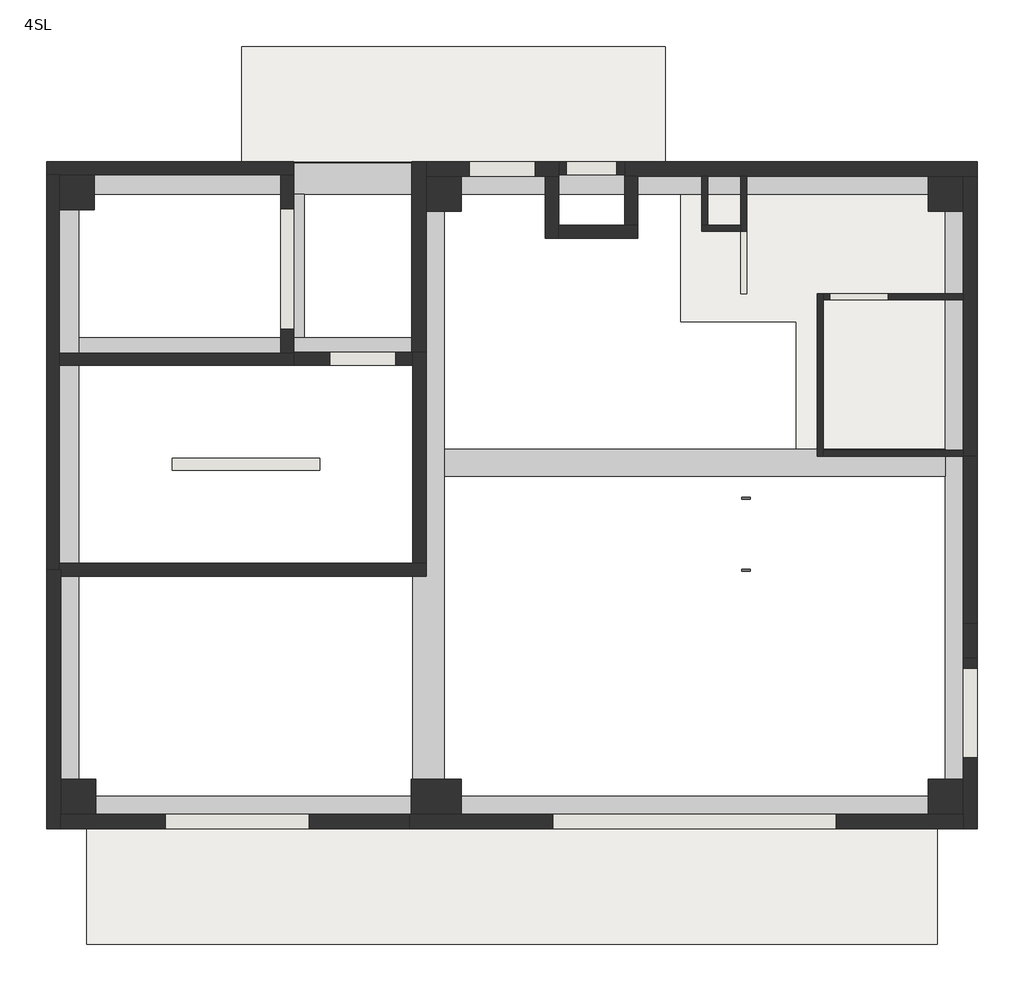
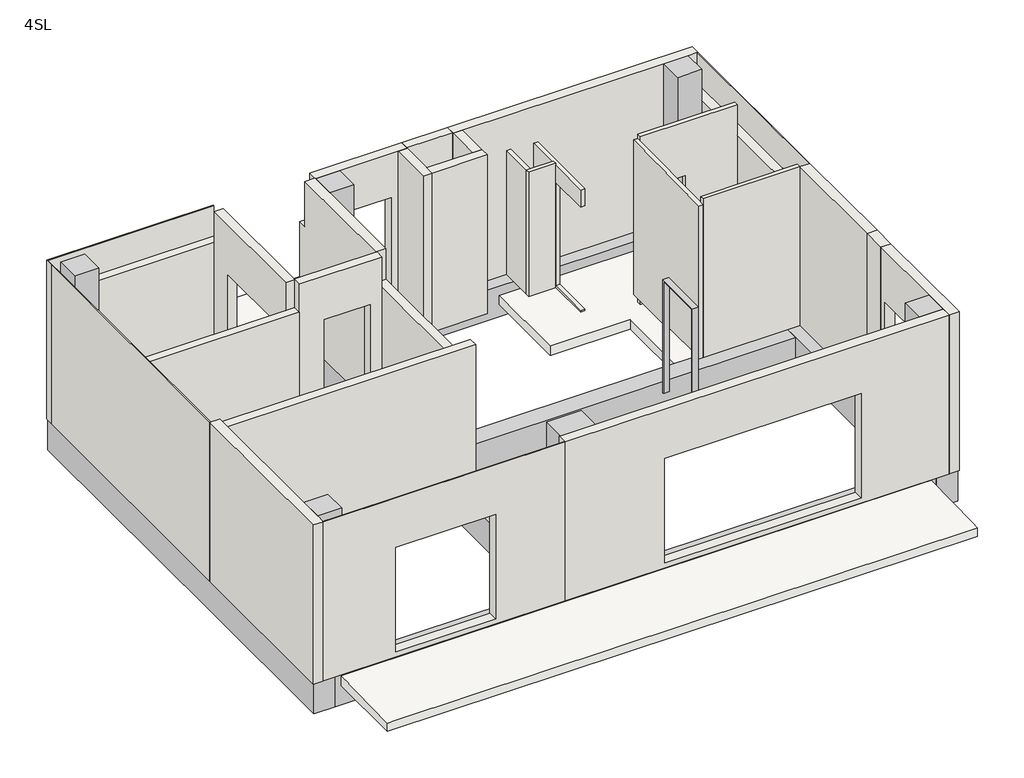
# One storey: 28 walls, 9 beams, 6 columns, 3 slabs, 1 proxy.
"""IFC4 building model written with IfcOpenShell, lengths in millimetres."""

import ifcopenshell
import ifcopenshell.guid

model = None  # the IFC model being written
_history = None  # IfcOwnerHistory: only IFC2X3 demands one
_inside = {}  # id of a spatial element -> (the spatial element, [elements in it])
_under = {}  # id of a project, library or spatial element -> (it, [spatial elements below it])
_declared = {}  # id of a project -> (the project, [libraries it declares])
_typed = {}  # id of a type object -> (the type object, [elements of that type])
_made_of = {}  # id of a material, layer set ... -> (it, [elements and type objects made of it])


def new_model(schema):
    """Start an empty IFC model of exactly this schema.

    Asked for "IFC4X3", IfcOpenShell would pick the latest addendum, in which some entities
    have other attributes; the version numbers below select the first issue.
    IFC2X3 requires an IfcOwnerHistory on every rooted entity: one is made here for all.
    """
    global model, _history
    if schema == "IFC4X3":
        model = ifcopenshell.file(schema_version=(4, 3, 0, 0))
    else:
        model = ifcopenshell.file(schema=schema)
    _inside.clear()
    _under.clear()
    _declared.clear()
    _typed.clear()
    _made_of.clear()
    _history = None
    if model.schema == "IFC2X3":
        org = make("IfcOrganization", Name="unknown")
        user = make(
            "IfcPersonAndOrganization",
            ThePerson=make("IfcPerson", FamilyName="unknown"),
            TheOrganization=org,
        )
        app = make(
            "IfcApplication",
            ApplicationDeveloper=org,
            Version="unknown",
            ApplicationFullName="unknown",
            ApplicationIdentifier="unknown",
        )
        _history = make(
            "IfcOwnerHistory",
            OwningUser=user,
            OwningApplication=app,
            ChangeAction="ADDED",
            CreationDate=0,
        )
    return model


def make(cls, **values):
    """One entity of the class cls with the attributes given. An attribute that is None is left unset."""
    return model.create_entity(
        cls, **{name: value for name, value in values.items() if value is not None}
    )


def rooted(cls, **values):
    """An entity with a GlobalId (a new one), such as an element, a storey or a relation."""
    return make(cls, GlobalId=ifcopenshell.guid.new(), OwnerHistory=_history, **values)


def si_unit(unit_type, name, prefix=None):
    """IfcSIUnit, for example si_unit("LENGTHUNIT", "METRE", prefix="MILLI")."""
    return make("IfcSIUnit", UnitType=unit_type, Prefix=prefix, Name=name)


def assignment(units):
    """IfcUnitAssignment: the units of a project."""
    return None if units is None else make("IfcUnitAssignment", Units=units)


def point(xyz):
    """IfcCartesianPoint."""
    return None if xyz is None else make("IfcCartesianPoint", Coordinates=xyz)


def direction(xyz):
    """IfcDirection."""
    return None if xyz is None else make("IfcDirection", DirectionRatios=xyz)


def frame(location, z_axis=None, x_axis=None):
    """IfcAxis2Placement3D, a coordinate frame: its origin and axes. An axis left out is left unset."""
    return make(
        "IfcAxis2Placement3D",
        Location=point(location),
        Axis=direction(z_axis),
        RefDirection=direction(x_axis),
    )


def origin():
    """The frame at (0, 0, 0) with its axes left unset."""
    return frame((0.0, 0.0, 0.0))


def place(relative_to, where):
    """IfcLocalPlacement: puts the frame where relative to a parent placement (None: the world)."""
    return make(
        "IfcLocalPlacement", PlacementRelTo=relative_to, RelativePlacement=where
    )


def context(
    kind, dimensions, precision=None, world=None, true_north=None, identifier=None
):
    """IfcGeometricRepresentationContext, for example the 3D "Model" context."""
    return make(
        "IfcGeometricRepresentationContext",
        ContextIdentifier=identifier,
        ContextType=kind,
        CoordinateSpaceDimension=dimensions,
        Precision=precision,
        WorldCoordinateSystem=world,
        TrueNorth=true_north,
    )


def project(units=None, contexts=None):
    """IfcProject with its units and contexts."""
    return rooted(
        "IfcProject",
        Name="project",
        RepresentationContexts=contexts,
        UnitsInContext=assignment(units),
    )


def spatial(cls, under=None, at=None, **own):
    """A site, building, storey or space (cls), placed at a placement, below another one or the project."""
    s = rooted(cls, ObjectPlacement=at, **own)
    if under is not None:
        _under.setdefault(under.id(), (under, []))[1].append(s)
    return s


def polyline(points):
    """IfcPolyline through the points."""
    return make("IfcPolyline", Points=[point(p) for p in points])


def outline(outer, holes=None, kind="AREA"):
    """IfcArbitraryClosedProfileDef: a profile drawn as a closed curve; with holes, ...WithVoids."""
    if holes is None:
        return make("IfcArbitraryClosedProfileDef", ProfileType=kind, OuterCurve=outer)
    return make(
        "IfcArbitraryProfileDefWithVoids",
        ProfileType=kind,
        OuterCurve=outer,
        InnerCurves=holes,
    )


def extrude(swept, where, along, depth):
    """IfcExtrudedAreaSolid: the profile swept, set in the frame where, extruded along a direction by depth."""
    return make(
        "IfcExtrudedAreaSolid",
        SweptArea=swept,
        Position=where,
        ExtrudedDirection=direction(along),
        Depth=depth,
    )


def faces_of(points, faces, orient=None, outer=None):
    """IfcFace entities. A face is a list of loops; a loop is a list of indices into points, from 0.

    orient and outer hold one flag for each loop. By default every Orientation is true, the
    first loop of a face is its IfcFaceOuterBound and the others are IfcFaceBound.
    """
    made = []
    for i, loops in enumerate(faces):
        bounds = []
        for j, loop in enumerate(loops):
            is_outer = j == 0 if outer is None else outer[i][j]
            bounds.append(
                make(
                    "IfcFaceOuterBound" if is_outer else "IfcFaceBound",
                    Bound=make("IfcPolyLoop", Polygon=[points[k] for k in loop]),
                    Orientation=True if orient is None else orient[i][j],
                )
            )
        made.append(make("IfcFace", Bounds=bounds))
    return made


def faceted_brep(points, faces, orient=None, outer=None, voids=None):
    """IfcFacetedBrep: a solid bounded by flat faces; with voids (closed shells), ...WithVoids."""
    shared = [point(p) for p in points]
    hull = make("IfcClosedShell", CfsFaces=faces_of(shared, faces, orient, outer))
    if voids is None:
        return make("IfcFacetedBrep", Outer=hull)
    return make(
        "IfcFacetedBrepWithVoids",
        Outer=hull,
        Voids=[
            make(cls, CfsFaces=faces_of(shared, fs, o, b)) for cls, fs, o, b in voids
        ],
    )


def shape(context_of_items, identifier, shape_type, items):
    """IfcShapeRepresentation: the items that make up one representation, for example the "Body"."""
    return make(
        "IfcShapeRepresentation",
        ContextOfItems=context_of_items,
        RepresentationIdentifier=identifier,
        RepresentationType=shape_type,
        Items=items,
    )


def source(mapping_origin, context_of_items, identifier, shape_type, items):
    """IfcRepresentationMap: a shape defined once, which mapped items show again and again."""
    return make(
        "IfcRepresentationMap",
        MappingOrigin=mapping_origin,
        MappedRepresentation=shape(context_of_items, identifier, shape_type, items),
    )


def transform(
    local_origin,
    x_axis=None,
    y_axis=None,
    z_axis=None,
    scale=None,
    scale2=None,
    scale3=None,
    uniform=True,
):
    """IfcCartesianTransformationOperator3D, or its non-uniform kind. x_axis, y_axis, z_axis: its Axis1, 2, 3."""
    if uniform:
        return make(
            "IfcCartesianTransformationOperator3D",
            Axis1=direction(x_axis),
            Axis2=direction(y_axis),
            LocalOrigin=point(local_origin),
            Scale=scale,
            Axis3=direction(z_axis),
        )
    return make(
        "IfcCartesianTransformationOperator3DnonUniform",
        Axis1=direction(x_axis),
        Axis2=direction(y_axis),
        LocalOrigin=point(local_origin),
        Scale=scale,
        Axis3=direction(z_axis),
        Scale2=scale2,
        Scale3=scale3,
    )


def mapped(mapping_source, mapping_target):
    """IfcMappedItem: shows the shape of a source again, moved by a transform."""
    return make(
        "IfcMappedItem", MappingSource=mapping_source, MappingTarget=mapping_target
    )


def made_of(thing, what):
    """Note that an element or type object is made of a material, layer set ...; save() writes the relation."""
    if what is not None:
        _made_of.setdefault(what.id(), (what, []))[1].append(thing)
    return thing


def element(
    cls,
    number,
    at=None,
    inside=None,
    cuts=None,
    type_object=None,
    material=None,
    context=None,
    identifier="Body",
    shape_type=None,
    held_by="IfcProductDefinitionShape",
    body=None,
    shapes=None,
    **own,
):
    """One element of the class cls, such as IfcWall. Its Tag is "e" and its number.

    at: its placement. inside: the storey or other place that contains it. cuts: it is an
    opening in that element (IfcRelVoidsElement). A single representation is given by context,
    identifier, shape_type and body (its items); several are given by shapes. held_by: the class
    of the entity that holds the representations. save() writes the other relations.
    """
    e = rooted(cls, Tag="e%d" % number, ObjectPlacement=at, **own)
    if body is not None:
        shapes = [shape(context, identifier, shape_type, body)]
    if shapes is not None:
        e.Representation = make(held_by, Representations=shapes)
    if inside is not None:
        _inside.setdefault(inside.id(), (inside, []))[1].append(e)
    if cuts is not None:
        rooted(
            "IfcRelVoidsElement", RelatingBuildingElement=cuts, RelatedOpeningElement=e
        )
    if type_object is not None:
        _typed.setdefault(type_object.id(), (type_object, []))[1].append(e)
    return made_of(e, material)


def aggregate(whole, parts):
    """IfcRelAggregates: a whole, such as a stair, and the parts it consists of."""
    return rooted("IfcRelAggregates", RelatingObject=whole, RelatedObjects=parts)


def save(model, path):
    """Write the relations noted so far, then the file.

    IfcRelAggregates (storeys below a building ...), IfcRelContainedInSpatialStructure (elements
    in a storey), IfcRelDefinesByType, IfcRelAssociatesMaterial and IfcRelDeclares: one each for
    every whole, place, type object, material and project.
    """
    for whole, parts in _under.values():
        aggregate(whole, parts)
    for where, things in _inside.values():
        rooted(
            "IfcRelContainedInSpatialStructure",
            RelatedElements=things,
            RelatingStructure=where,
        )
    for kind, things in _typed.values():
        rooted("IfcRelDefinesByType", RelatedObjects=things, RelatingType=kind)
    for what, things in _made_of.values():
        rooted("IfcRelAssociatesMaterial", RelatedObjects=things, RelatingMaterial=what)
    for by, libraries in _declared.values():
        rooted("IfcRelDeclares", RelatingContext=by, RelatedDefinitions=libraries)
    model.write(path)


def w900h2200_d33cf105(model_context):
    return source(origin(), model_context, "Body", "SweptSolid", [
        extrude(outline(polyline([(0.0, -350.0), (0.0, -325.0), (2200.0, -325.0), (2200.0, 575.0), (0.0, 575.0), (0.0, 600.0), (2225.0, 600.0), (2225.0, -350.0), (0.0, -350.0)])), frame((0.0, -55.0, 0.0), z_axis=(0.0, 1.0, 0.0), x_axis=(0.0, 0.0, 1.0)), (0.0, 0.0, 1.0), 110.0),
    ])


model = new_model("IFC4")

# Units and contexts
model_context = context("Model", 3, world=origin())
ifc_project = project(units=[si_unit("LENGTHUNIT", "METRE", prefix="MILLI")], contexts=[model_context])

# Site, building, storey
site = spatial("IfcSite", under=ifc_project)
building = spatial("IfcBuilding", under=site)
storey = spatial("IfcBuildingStorey", under=building, Name="4SL", Elevation=9360.0)

# Beams
placement = place(None, origin())
element("IfcBeam", 1, ObjectType="コンクリート-長方形梁 : B1-350x550", at=placement, inside=storey, context=model_context, shape_type="SweptSolid", body=[
    extrude(outline(polyline([(7768.2341012, -131.3998484), (7768.2341012, -481.3998484), (1318.2341012, -481.3998484), (1318.2341012, -131.3998484), (7768.2341012, -131.3998484)])), frame((0.0, 0.0, 8810.0), z_axis=(0.0, 0.0, 1.0), x_axis=(1.0, 0.0, 0.0)), (0.0, 0.0, 1.0), 550.0),
])
element("IfcBeam", 2, ObjectType="コンクリート-長方形梁 : B1-350x550", at=placement, inside=storey, context=model_context, shape_type="Brep", body=[
    faceted_brep([(-3381.7658988, 1298.6001516, 9360.0), (-3381.7658988, 948.6001516, 9360.0), (-616.7658988, 948.6001516, 9360.0), (918.2341012, 948.6001516, 9360.0), (918.2341012, 1298.6001516, 9360.0), (-481.7658988, 1298.6001516, 9360.0), (-781.7658988, 1298.6001516, 9360.0), (-3381.7658988, 948.6001516, 8810.0), (-616.7658988, 948.6001516, 8810.0), (918.2341012, 948.6001516, 8810.0), (-3381.7658988, 1298.6001516, 8810.0), (918.2341012, 1298.6001516, 8810.0)], [[[0, 1, 2, 3, 4, 5, 6]], [[1, 7, 8, 9, 3, 2]], [[7, 10, 11, 9, 8]], [[10, 0, 6, 5, 4, 11]], [[1, 0, 10, 7]], [[4, 3, 9, 11]]]),
])
element("IfcBeam", 3, ObjectType="コンクリート-長方形梁 : B2-300x500", at=placement, inside=storey, context=model_context, shape_type="SweptSolid", body=[
    extrude(outline(polyline([(-481.7658988, 1298.6001516), (-781.7658988, 1298.6001516), (-781.7658988, 3148.6001516), (-481.7658988, 3148.6001516), (-481.7658988, 1298.6001516)])), frame((0.0, 0.0, 8860.0), z_axis=(0.0, 0.0, 1.0), x_axis=(1.0, 0.0, 0.0)), (0.0, 0.0, 1.0), 500.0),
])
element("IfcBeam", 4, ObjectType="コンクリート-長方形梁 : G1-400x600", at=placement, inside=storey, context=model_context, shape_type="Brep", body=[
    faceted_brep([(7768.2341012, -5001.3998484, 9360.0), (8168.2341012, -5001.3998484, 9360.0), (8168.2341012, -221.3998484, 9360.0), (8168.2341012, 3378.6001516, 9360.0), (8168.2341012, 3548.6001516, 9360.0), (7768.2341012, 3548.6001516, 9360.0), (7768.2341012, 3148.6001516, 9360.0), (7768.2341012, -131.3998484, 9360.0), (7768.2341012, -481.3998484, 9360.0), (7768.2341012, -4601.3998484, 9360.0), (8168.2341012, -5001.3998484, 8760.0), (8168.2341012, -221.3998484, 8760.0), (8168.2341012, 3378.6001516, 8760.0), (8168.2341012, 3548.6001516, 8760.0), (7768.2341012, -5001.3998484, 8760.0), (7768.2341012, -4601.3998484, 8760.0), (7768.2341012, 3148.6001516, 8760.0), (7768.2341012, 3548.6001516, 8760.0)], [[[0, 1, 2, 3, 4, 5, 6, 7, 8, 9]], [[1, 10, 11, 12, 13, 4, 3, 2]], [[10, 14, 15, 16, 17, 13, 12, 11]], [[14, 0, 9, 8, 7, 6, 5, 17, 16, 15]], [[1, 0, 14, 10]], [[5, 4, 13, 17]]]),
])
element("IfcBeam", 5, ObjectType="コンクリート-長方形梁 : G1-400x600", at=placement, inside=storey, context=model_context, shape_type="Brep", body=[
    faceted_brep([(-3381.7658988, 3548.6001516, 9360.0), (-3781.7658988, 3548.6001516, 9360.0), (-3781.7658988, 3398.6001516, 9360.0), (-3781.7658988, -1686.3998484, 9360.0), (-3781.7658988, -5001.3998484, 9360.0), (-3381.7658988, -5001.3998484, 9360.0), (-3381.7658988, -4601.3998484, 9360.0), (-3381.7658988, 948.6001516, 9360.0), (-3381.7658988, 1298.6001516, 9360.0), (-3381.7658988, 3148.6001516, 9360.0), (-3781.7658988, 3548.6001516, 8760.0), (-3781.7658988, 3398.6001516, 8760.0), (-3781.7658988, -1686.3998484, 8760.0), (-3781.7658988, -5001.3998484, 8760.0), (-3381.7658988, 3548.6001516, 8760.0), (-3381.7658988, 3148.6001516, 8760.0), (-3381.7658988, -4601.3998484, 8760.0), (-3381.7658988, -5001.3998484, 8760.0)], [[[0, 1, 2, 3, 4, 5, 6, 7, 8, 9]], [[1, 10, 11, 12, 13, 4, 3, 2]], [[10, 14, 15, 16, 17, 13, 12, 11]], [[14, 0, 9, 8, 7, 6, 5, 17, 16, 15]], [[1, 0, 14, 10]], [[5, 4, 13, 17]]]),
])
element("IfcBeam", 6, ObjectType="コンクリート-長方形梁 : G1-400x600", at=placement, inside=storey, context=model_context, shape_type="Brep", body=[
    faceted_brep([(918.2341012, -5001.3998484, 9360.0), (1318.2341012, -5001.3998484, 9360.0), (1318.2341012, -4601.3998484, 9360.0), (1318.2341012, -481.3998484, 9360.0), (1318.2341012, -131.3998484, 9360.0), (1318.2341012, 3148.6001516, 9360.0), (918.2341012, 3148.6001516, 9360.0), (918.2341012, 1298.6001516, 9360.0), (918.2341012, 1113.6001516, 9360.0), (918.2341012, 948.6001516, 9360.0), (918.2341012, -1601.3998484, 9360.0), (918.2341012, -4601.3998484, 9360.0), (918.2341012, -5001.3998484, 8760.0), (918.2341012, 3148.6001516, 8760.0), (918.2341012, 1113.6001516, 8760.0), (918.2341012, -1601.3998484, 8760.0), (918.2341012, -4601.3998484, 8760.0), (1318.2341012, -5001.3998484, 8760.0), (1318.2341012, 3148.6001516, 8760.0), (1318.2341012, -4601.3998484, 8760.0), (1318.2341012, 3148.6001516, 9180.0)], [[[0, 1, 2, 3, 4, 5, 6, 7, 8, 9, 10, 11]], [[12, 0, 11, 10, 9, 8, 7, 6, 13, 14, 15, 16]], [[17, 12, 16, 15, 14, 13, 18, 19]], [[1, 17, 19, 18, 20, 5, 4, 3, 2]], [[1, 0, 12, 17]], [[6, 5, 20, 18, 13]]]),
])
element("IfcBeam", 7, ObjectType="コンクリート-長方形梁 : G1-400x600", at=placement, inside=storey, context=model_context, shape_type="SweptSolid", body=[
    extrude(outline(polyline([(7768.2341012, -4601.3998484), (7768.2341012, -5001.3998484), (1318.2341012, -5001.3998484), (1318.2341012, -4601.3998484), (7768.2341012, -4601.3998484)])), frame((0.0, 0.0, 8760.0), z_axis=(0.0, 0.0, 1.0), x_axis=(1.0, 0.0, 0.0)), (0.0, 0.0, 1.0), 600.0),
])
element("IfcBeam", 8, ObjectType="コンクリート-長方形梁 : G1-400x600", at=placement, inside=storey, context=model_context, shape_type="Brep", body=[
    faceted_brep([(7768.2341012, 3148.6001516, 9360.0), (7768.2341012, 3548.6001516, 9360.0), (-616.7658988, 3548.6001516, 9360.0), (-3381.7658988, 3548.6001516, 9360.0), (-3381.7658988, 3148.6001516, 9360.0), (-781.7658988, 3148.6001516, 9360.0), (-481.7658988, 3148.6001516, 9360.0), (918.2341012, 3148.6001516, 9360.0), (1318.2341012, 3148.6001516, 9360.0), (7768.2341012, 3548.6001516, 8760.0), (-616.7658988, 3548.6001516, 8760.0), (-3381.7658988, 3548.6001516, 8760.0), (7768.2341012, 3148.6001516, 8760.0), (1318.2341012, 3148.6001516, 8760.0), (918.2341012, 3148.6001516, 8760.0), (-3381.7658988, 3148.6001516, 8760.0)], [[[0, 1, 2, 3, 4, 5, 6, 7, 8]], [[1, 9, 10, 11, 3, 2]], [[9, 12, 13, 14, 15, 11, 10]], [[12, 0, 8, 7, 6, 5, 4, 15, 14, 13]], [[1, 0, 12, 9]], [[4, 3, 11, 15]]]),
])
element("IfcBeam", 9, ObjectType="コンクリート-長方形梁 : G1-400x600", at=placement, inside=storey, context=model_context, shape_type="Brep", body=[
    faceted_brep([(-3381.7658988, -4601.3998484, 9360.0), (-3381.7658988, -5001.3998484, 9360.0), (870.7341012, -5001.3998484, 9360.0), (918.2341012, -5001.3998484, 9360.0), (918.2341012, -4601.3998484, 9360.0), (-3381.7658988, -5001.3998484, 8760.0), (870.7341012, -5001.3998484, 8760.0), (918.2341012, -5001.3998484, 8760.0), (-3381.7658988, -4601.3998484, 8760.0), (918.2341012, -4601.3998484, 8760.0), (-3381.7658988, -4601.3998484, 9180.0), (918.2341012, -4601.3998484, 9180.0)], [[[0, 1, 2, 3, 4]], [[1, 5, 6, 7, 3, 2]], [[5, 8, 9, 7, 6]], [[8, 10, 0, 4, 11, 9]], [[1, 0, 10, 8, 5]], [[4, 3, 7, 9, 11]]]),
])

# Proxy
w900h2200_shape = w900h2200_d33cf105(model_context)
element("IfcBuildingElementProxy", 10, Name="開口枠 - 鋼製 1 : W900H2200", ObjectType="開口枠 - 鋼製 1 : W900H2200", at=placement, inside=storey, context=model_context, shape_type="MappedRepresentation", body=[
    mapped(w900h2200_shape, transform((5203.2341012, -1351.3998484, 9360.0), x_axis=(0.0, 1.0, 0.0), y_axis=(-1.0, 0.0, 0.0), z_axis=(0.0, 0.0, 1.0))),
])

# Columns
element("IfcColumn", 11, ObjectType="角柱 : 600 x 600mm", at=placement, inside=storey, context=model_context, shape_type="Brep", body=[
    faceted_brep([(-3181.7658988, 2948.6001516, 12480.0), (-3181.7658988, 3398.6001516, 12480.0), (-3631.7658988, 3398.6001516, 12480.0), (-3631.7658988, 2948.6001516, 12480.0), (-3181.7658988, 3398.6001516, 9360.0), (-3181.7658988, 2948.6001516, 9360.0), (-3631.7658988, 2948.6001516, 9360.0), (-3631.7658988, 3398.6001516, 9360.0), (-3631.7658988, 3398.6001516, 11880.0)], [[[0, 1, 2, 3]], [[4, 5, 6, 7]], [[5, 0, 3, 6]], [[0, 5, 4, 1]], [[1, 4, 7, 8, 2]], [[3, 2, 8, 7, 6]]]),
])
element("IfcColumn", 12, ObjectType="角柱 : 620 x 620mm", at=placement, inside=storey, context=model_context, shape_type="Brep", body=[
    faceted_brep([(7548.2341012, -4381.3998484, 12480.0), (7548.2341012, -4831.3998484, 12480.0), (7998.2341012, -4831.3998484, 12480.0), (7998.2341012, -4381.3998484, 12480.0), (7548.2341012, -4831.3998484, 9360.0), (7548.2341012, -4381.3998484, 9360.0), (7998.2341012, -4381.3998484, 9360.0), (7998.2341012, -4831.3998484, 9360.0), (7548.2341012, -4381.3998484, 9395.0), (7548.2341012, -4381.3998484, 11795.0), (7998.2341012, -4381.3998484, 11795.0), (7998.2341012, -4381.3998484, 9395.0), (7548.2341012, -4831.3998484, 9395.0), (7548.2341012, -4831.3998484, 11795.0)], [[[0, 1, 2, 3]], [[4, 5, 6, 7]], [[5, 8, 9, 0, 3, 10, 11, 6]], [[0, 9, 8, 5, 4, 12, 13, 1]], [[2, 1, 13, 12, 4, 7]], [[3, 2, 7, 6, 11, 10]]]),
])
element("IfcColumn", 13, ObjectType="角柱 : 620 x 620mm", at=placement, inside=storey, context=model_context, shape_type="Brep", body=[
    faceted_brep([(7548.2341012, 2928.6001516, 12480.0), (7998.2341012, 2928.6001516, 12480.0), (7998.2341012, 3378.6001516, 12480.0), (7548.2341012, 3378.6001516, 12480.0), (7998.2341012, 2928.6001516, 9360.0), (7548.2341012, 2928.6001516, 9360.0), (7548.2341012, 3378.6001516, 9360.0), (7998.2341012, 3378.6001516, 9360.0), (7548.2341012, 2928.6001516, 9395.0), (7548.2341012, 2928.6001516, 11795.0), (7548.2341012, 3378.6001516, 11795.0), (7548.2341012, 3378.6001516, 9395.0), (7998.2341012, 2928.6001516, 9395.0), (7998.2341012, 2928.6001516, 11795.0), (7998.2341012, 3378.6001516, 11880.0)], [[[0, 1, 2, 3]], [[4, 5, 6, 7]], [[5, 8, 9, 0, 3, 10, 11, 6]], [[0, 9, 8, 5, 4, 12, 13, 1]], [[2, 1, 13, 12, 4, 7, 14]], [[3, 2, 14, 7, 6, 11, 10]]]),
])
element("IfcColumn", 14, ObjectType="角柱 : 620 x 620mm", at=placement, inside=storey, context=model_context, shape_type="Brep", body=[
    faceted_brep([(1538.2341012, 2928.6001516, 12480.0), (1538.2341012, 3378.6001516, 12480.0), (1088.2341012, 3378.6001516, 12480.0), (1088.2341012, 2928.6001516, 12480.0), (1538.2341012, 3378.6001516, 9360.0), (1538.2341012, 2928.6001516, 9360.0), (1088.2341012, 2928.6001516, 9360.0), (1088.2341012, 3378.6001516, 9360.0), (1538.2341012, 2928.6001516, 9395.0), (1538.2341012, 2928.6001516, 11795.0), (1088.2341012, 2928.6001516, 11795.0), (1088.2341012, 2928.6001516, 9395.0), (1538.2341012, 3378.6001516, 9395.0), (1538.2341012, 3378.6001516, 11795.0)], [[[0, 1, 2, 3]], [[4, 5, 6, 7]], [[5, 8, 9, 0, 3, 10, 11, 6]], [[0, 9, 8, 5, 4, 12, 13, 1]], [[2, 1, 13, 12, 4, 7]], [[3, 2, 7, 6, 11, 10]]]),
])
element("IfcColumn", 15, ObjectType="角柱 : 620 x 620mm", at=placement, inside=storey, context=model_context, shape_type="Brep", body=[
    faceted_brep([(-3161.7658988, -4381.3998484, 12480.0), (-3611.7658988, -4381.3998484, 12480.0), (-3611.7658988, -4831.3998484, 12480.0), (-3161.7658988, -4831.3998484, 12480.0), (-3611.7658988, -4381.3998484, 9360.0), (-3161.7658988, -4381.3998484, 9360.0), (-3161.7658988, -4831.3998484, 9360.0), (-3611.7658988, -4831.3998484, 9360.0), (-3161.7658988, -4381.3998484, 11795.0), (-3161.7658988, -4381.3998484, 9395.0), (-3611.7658988, -4381.3998484, 9395.0), (-3611.7658988, -4381.3998484, 11795.0), (-3161.7658988, -4831.3998484, 11795.0), (-3161.7658988, -4831.3998484, 9395.0), (-3611.7658988, -4831.3998484, 11880.0)], [[[0, 1, 2, 3]], [[4, 5, 6, 7]], [[0, 8, 9, 5, 4, 10, 11, 1]], [[5, 9, 8, 0, 3, 12, 13, 6]], [[1, 11, 10, 4, 7, 14, 2]], [[3, 2, 14, 7, 6, 13, 12]]]),
])
element("IfcColumn", 16, ObjectType="角柱 : 620 x 640mm", at=placement, inside=storey, context=model_context, shape_type="Brep", body=[
    faceted_brep([(1538.2341012, -4381.3998484, 12480.0), (898.2341012, -4381.3998484, 12480.0), (898.2341012, -4831.3998484, 12480.0), (1538.2341012, -4831.3998484, 12480.0), (898.2341012, -4381.3998484, 9360.0), (1538.2341012, -4381.3998484, 9360.0), (1538.2341012, -4831.3998484, 9360.0), (898.2341012, -4831.3998484, 9360.0), (1538.2341012, -4381.3998484, 11795.0), (1538.2341012, -4381.3998484, 9395.0), (898.2341012, -4381.3998484, 9395.0), (898.2341012, -4381.3998484, 11795.0), (898.2341012, -4831.3998484, 9395.0), (898.2341012, -4831.3998484, 11795.0), (1538.2341012, -4831.3998484, 11795.0), (1538.2341012, -4831.3998484, 9395.0)], [[[0, 1, 2, 3]], [[4, 5, 6, 7]], [[1, 0, 8, 9, 5, 4, 10, 11]], [[1, 11, 10, 4, 7, 12, 13, 2]], [[5, 9, 8, 0, 3, 14, 15, 6]], [[3, 2, 13, 12, 7, 6, 15, 14]]]),
])

# Slabs
element("IfcSlab", 17, ObjectType="一般180mm", at=placement, inside=storey, context=model_context, shape_type="Brep", body=[
    faceted_brep([(4363.2341012, 1508.6001516, 9000.0), (4363.2341012, 3148.6001516, 9000.0), (7768.2341012, 3148.6001516, 9000.0), (7768.2341012, -131.3998484, 9000.0), (5853.2341012, -131.3998484, 9000.0), (5853.2341012, 1508.6001516, 9000.0), (4363.2341012, 1508.6001516, 9180.0), (5853.2341012, 1508.6001516, 9180.0), (5853.2341012, -131.3998484, 9180.0), (6213.2341012, -131.3998484, 9180.0), (7768.2341012, -131.3998484, 9180.0), (7768.2341012, 3148.6001516, 9180.0), (4723.2341012, 3148.6001516, 9180.0), (4363.2341012, 3148.6001516, 9180.0)], [[[0, 1, 2, 3, 4, 5]], [[6, 7, 8, 9, 10, 11, 12, 13]], [[1, 0, 6, 13]], [[2, 1, 13, 12, 11]], [[3, 2, 11, 10]], [[4, 3, 10, 9, 8]], [[5, 4, 8, 7]], [[0, 5, 7, 6]]]),
])
element("IfcSlab", 18, ObjectType="一般 180mm+15ｍｍ", at=placement, inside=storey, context=model_context, shape_type="Brep", body=[
    faceted_brep([(4168.2341012, 3563.6001516, 9150.0), (-1281.7658988, 3563.6001516, 9150.0), (-1281.7658988, 5048.6001516, 9150.0), (4168.2341012, 5048.6001516, 9150.0), (4168.2341012, 3563.6001516, 9345.0), (4018.2341012, 3563.6001516, 9345.0), (-1131.7658988, 3563.6001516, 9345.0), (-1281.7658988, 3563.6001516, 9345.0), (-1281.7658988, 5048.6001516, 9315.0), (-1131.7658988, 5048.6001516, 9315.0), (4168.2341012, 5048.6001516, 9315.0), (4168.2341012, 4898.6001516, 9318.030303)], [[[0, 1, 2, 3]], [[1, 0, 4, 5, 6, 7]], [[2, 1, 7, 8]], [[3, 2, 8, 9, 10]], [[0, 3, 10, 11, 4]], [[10, 9, 8, 7, 6, 5, 4, 11]]]),
])
element("IfcSlab", 19, ObjectType="一般 180mm+15ｍｍ", at=placement, inside=storey, context=model_context, shape_type="Brep", body=[
    faceted_brep([(7668.2341012, -5016.3998484, 9150.0), (7668.2341012, -6501.3998484, 9150.0), (-3281.7658988, -6501.3998484, 9150.0), (-3281.7658988, -5016.3998484, 9150.0), (7668.2341012, -5016.3998484, 9345.0), (7668.2341012, -6351.3998484, 9318.030303), (7668.2341012, -6501.3998484, 9315.0), (-3131.7658988, -6501.3998484, 9315.0), (-3281.7658988, -6501.3998484, 9315.0), (-3281.7658988, -5016.3998484, 9345.0), (7518.2341012, -5016.3998484, 9345.0)], [[[0, 1, 2, 3]], [[1, 0, 4, 5, 6]], [[2, 1, 6, 7, 8]], [[3, 2, 8, 9]], [[0, 3, 9, 10, 4]], [[9, 8, 7, 6, 5, 4, 10]]]),
])

# Walls
element("IfcWall", 20, ObjectType="標準-150mm", at=placement, inside=storey, context=model_context, shape_type="Brep", body=[
    faceted_brep([(-281.7658988, -251.3998484, 9360.0), (-2181.7658988, -251.3998484, 9360.0), (-2181.7658988, -251.3998484, 10495.0), (-431.7658988, -251.3998484, 10495.0), (-281.7658988, -251.3998484, 10495.0), (-281.7658988, -251.3998484, 9395.0), (-281.7658988, -401.3998484, 9360.0), (-281.7658988, -401.3998484, 10495.0), (-2181.7658988, -401.3998484, 10495.0), (-2181.7658988, -401.3998484, 9360.0)], [[[0, 1, 2, 3, 4, 5]], [[6, 7, 8, 9]], [[1, 0, 6, 9]], [[2, 1, 9, 8]], [[4, 3, 2, 8, 7]], [[0, 5, 4, 7, 6]]]),
])
element("IfcWall", 21, ObjectType="外壁-150mm+15mm", at=placement, inside=storey, context=model_context, shape_type="Brep", body=[
    faceted_brep([(-3796.7658988, 3398.6001516, 9360.0), (-3781.7658988, 3398.6001516, 9360.0), (-3631.7658988, 3398.6001516, 9360.0), (-3181.7658988, 3398.6001516, 9360.0), (-781.7658988, 3398.6001516, 9360.0), (-616.7658988, 3398.6001516, 9360.0), (-616.7658988, 3398.6001516, 11595.0), (-699.2658988, 3398.6001516, 11595.0), (-699.2658988, 3398.6001516, 11880.0), (-3631.7658988, 3398.6001516, 11880.0), (-3781.7658988, 3398.6001516, 11880.0), (-3781.7658988, 3398.6001516, 12480.0), (-3796.7658988, 3398.6001516, 12480.0), (-616.7658988, 3563.6001516, 9360.0), (-3796.7658988, 3563.6001516, 9360.0), (-3796.7658988, 3563.6001516, 12480.0), (-699.2658988, 3563.6001516, 12480.0), (-699.2658988, 3563.6001516, 11595.0), (-616.7658988, 3563.6001516, 11595.0), (-616.7658988, 3548.6001516, 9360.0), (-3781.7658988, 3548.6001516, 12480.0), (-699.2658988, 3548.6001516, 12480.0), (-699.2658988, 3548.6001516, 11880.0), (-3781.7658988, 3548.6001516, 11880.0)], [[[0, 1, 2, 3, 4, 5, 6, 7, 8, 9, 10, 11, 12]], [[13, 14, 15, 16, 17, 18]], [[5, 4, 3, 2, 1, 0, 14, 13, 19]], [[16, 15, 12, 11, 20, 21]], [[0, 12, 15, 14]], [[17, 16, 21, 22, 8, 7]], [[17, 7, 6, 18]], [[6, 5, 19, 13, 18]], [[20, 23, 22, 21]], [[22, 23, 10, 9, 8]], [[23, 20, 11, 10]]]),
])
element("IfcWall", 22, ObjectType="外壁-15mm+150mm+20mm", at=placement, inside=storey, context=model_context, shape_type="Brep", body=[
    faceted_brep([(7998.2341012, 3378.6001516, 9360.0), (7998.2341012, 2928.6001516, 9360.0), (7998.2341012, -221.3998484, 9360.0), (7998.2341012, -221.3998484, 11880.0), (7998.2341012, 3378.6001516, 11880.0), (8183.2341012, -221.3998484, 12480.0), (8183.2341012, -221.3998484, 9360.0), (8183.2341012, 3378.6001516, 9360.0), (8183.2341012, 3378.6001516, 12480.0), (8168.2341012, -221.3998484, 12480.0), (8168.2341012, -221.3998484, 11880.0), (8018.2341012, -221.3998484, 9360.0), (8168.2341012, -221.3998484, 9360.0), (8168.2341012, 3378.6001516, 12480.0), (8168.2341012, 3148.6001516, 12480.0), (8168.2341012, 3378.6001516, 9360.0), (8018.2341012, 3378.6001516, 9360.0), (8168.2341012, 3378.6001516, 11880.0), (8168.2341012, 3148.6001516, 11880.0)], [[[0, 1, 2, 3, 4]], [[5, 6, 7, 8]], [[6, 5, 9, 10, 3, 2, 11, 12]], [[5, 8, 13, 14, 9]], [[8, 7, 15, 16, 0, 4, 17, 13]], [[2, 1, 0, 16, 11]], [[16, 15, 7, 6, 12, 11]], [[17, 18, 10, 9, 14, 13]], [[10, 18, 17, 4, 3]]]),
])
element("IfcWall", 23, ObjectType="外壁-15mm+150mm+20mm", at=placement, inside=storey, context=model_context, shape_type="Brep", body=[
    faceted_brep([(7998.2341012, -4831.3998484, 9360.0), (7548.2341012, -4831.3998484, 9360.0), (1538.2341012, -4831.3998484, 9360.0), (898.2341012, -4831.3998484, 9360.0), (870.7341012, -4831.3998484, 9360.0), (870.7341012, -4831.3998484, 11880.0), (870.7341012, -4831.3998484, 12480.0), (898.2341012, -4831.3998484, 12480.0), (1538.2341012, -4831.3998484, 12480.0), (7548.2341012, -4831.3998484, 12480.0), (7998.2341012, -4831.3998484, 12480.0), (6368.2341012, -4831.3998484, 9455.0), (6368.2341012, -4831.3998484, 11505.0), (2718.2341012, -4831.3998484, 11505.0), (2718.2341012, -4831.3998484, 9455.0), (7998.2341012, -5016.3998484, 9360.0), (7998.2341012, -5016.3998484, 12480.0), (870.7341012, -5016.3998484, 12480.0), (870.7341012, -5016.3998484, 9360.0), (6368.2341012, -5016.3998484, 9455.0), (2718.2341012, -5016.3998484, 9455.0), (2718.2341012, -5016.3998484, 11505.0), (6368.2341012, -5016.3998484, 11505.0), (870.7341012, -4851.3998484, 9360.0), (870.7341012, -5001.3998484, 12480.0), (7998.2341012, -4851.3998484, 9360.0)], [[[0, 1, 2, 3, 4, 5, 6, 7, 8, 9, 10], [11, 12, 13, 14]], [[15, 16, 17, 18], [19, 20, 21, 22]], [[6, 5, 4, 23, 18, 17, 24]], [[10, 9, 8, 7, 6, 24, 17, 16]], [[0, 10, 16, 15, 25]], [[12, 11, 19, 22]], [[13, 12, 22, 21]], [[14, 13, 21, 20]], [[11, 14, 20, 19]], [[4, 3, 2, 1, 0, 25, 23]], [[25, 15, 18, 23]]]),
])
element("IfcWall", 24, ObjectType="外壁-15mm+150mm+20mm", at=placement, inside=storey, context=model_context, shape_type="Brep", body=[
    faceted_brep([(-3611.7658988, -5016.3998484, 9360.0), (-3611.7658988, -4831.3998484, 9360.0), (-3611.7658988, -4381.3998484, 9360.0), (-3611.7658988, -1771.3998484, 9360.0), (-3611.7658988, -1686.3998484, 9360.0), (-3611.7658988, -1686.3998484, 12480.0), (-3611.7658988, -1771.3998484, 12480.0), (-3611.7658988, -4381.3998484, 12480.0), (-3611.7658988, -4831.3998484, 12480.0), (-3611.7658988, -5001.3998484, 12480.0), (-3611.7658988, -5016.3998484, 12480.0), (-3796.7658988, -5016.3998484, 9360.0), (-3796.7658988, -5016.3998484, 12480.0), (-3796.7658988, -1686.3998484, 12480.0), (-3796.7658988, -1686.3998484, 9360.0), (-3631.7658988, -1686.3998484, 9360.0), (-3781.7658988, -1686.3998484, 12480.0), (-3631.7658988, -1686.3998484, 12480.0), (-3631.7658988, -5016.3998484, 9360.0)], [[[0, 1, 2, 3, 4, 5, 6, 7, 8, 9, 10]], [[11, 12, 13, 14]], [[5, 4, 15, 14, 13, 16, 17]], [[10, 9, 8, 7, 6, 5, 17, 16, 13, 12]], [[4, 3, 2, 1, 0, 18, 15]], [[0, 10, 12, 11, 18]], [[18, 11, 14, 15]]]),
])
element("IfcWall", 25, ObjectType="外壁-150mm+20mm", at=placement, inside=storey, context=model_context, shape_type="Brep", body=[
    faceted_brep([(1088.2341012, -1771.3998484, 9360.0), (1088.2341012, -1771.3998484, 12344.7772574), (-3611.7658988, -1771.3998484, 12344.7772574), (-3611.7658988, -1771.3998484, 9395.0), (1083.2341012, -1771.3998484, 9395.0), (1083.2341012, -1771.3998484, 9360.0), (1088.2341012, -1601.3998484, 9360.0), (-3631.7658988, -1601.3998484, 9360.0), (-3631.7658988, -1601.3998484, 12347.2499847), (1088.2341012, -1601.3998484, 12347.2499847), (1088.2341012, -1601.3998484, 11880.0), (1088.2341012, -1601.3998484, 9395.0), (-3611.7658988, -1686.3998484, 12346.013621), (-3611.7658988, -1686.3998484, 9395.0), (1088.2341012, -1751.3998484, 9360.0), (-3631.7658988, -1686.3998484, 12346.013621), (-3631.7658988, -1686.3998484, 11880.0), (-3631.7658988, -1686.3998484, 9395.0), (-3631.7658988, -1676.3998484, 9360.0), (-3631.7658988, -1676.3998484, 9395.0), (1083.2341012, -1751.3998484, 9360.0), (1083.2341012, -1676.3998484, 9360.0), (1083.2341012, -1676.3998484, 9395.0)], [[[0, 1, 2, 3, 4, 5]], [[6, 7, 8, 9, 10, 11]], [[2, 12, 13, 3]], [[0, 14, 6, 11, 10, 9, 1]], [[12, 15, 16, 17, 13]], [[8, 7, 18, 19, 17, 16, 15]], [[14, 0, 5, 20]], [[7, 6, 14, 20, 21, 18]], [[2, 1, 9, 8, 15, 12]], [[22, 4, 3, 13, 17, 19]], [[22, 21, 20, 5, 4]], [[21, 22, 19, 18]]]),
])
element("IfcWall", 26, ObjectType="外壁-150mm+20mm", at=placement, inside=storey, context=model_context, shape_type="Brep", body=[
    faceted_brep([(1088.2341012, 1113.6001516, 9360.0), (1088.2341012, 1113.6001516, 11880.0), (1088.2341012, -1601.3998484, 11880.0), (1088.2341012, -1601.3998484, 9395.0), (1088.2341012, 723.6001516, 9395.0), (1088.2341012, 723.6001516, 9360.0), (918.2341012, 1113.6001516, 11880.0), (918.2341012, 1113.6001516, 9360.0), (918.2341012, 1031.1001516, 9360.0), (918.2341012, 1031.1001516, 9395.0), (918.2341012, -1601.3998484, 9395.0), (918.2341012, -1601.3998484, 11880.0), (1068.2341012, 1113.6001516, 9360.0), (1068.2341012, 723.6001516, 9360.0), (993.2341012, 723.6001516, 9360.0), (993.2341012, 1031.1001516, 9360.0), (993.2341012, 723.6001516, 9395.0), (993.2341012, 1031.1001516, 9395.0)], [[[0, 1, 2, 3, 4, 5]], [[6, 7, 8, 9, 10, 11]], [[2, 11, 10, 3]], [[0, 12, 7, 6, 1]], [[12, 0, 5, 13]], [[7, 12, 13, 14, 15, 8]], [[2, 1, 6, 11]], [[16, 4, 3, 10, 9, 17]], [[4, 16, 14, 13, 5]], [[15, 17, 9, 8]], [[17, 15, 14, 16]]]),
])
element("IfcWall", 27, ObjectType="標準-150mm", at=placement, inside=storey, context=model_context, shape_type="Brep", body=[
    faceted_brep([(-3631.7658988, 948.6001516, 9360.0), (-3381.7658988, 948.6001516, 9360.0), (-616.7658988, 948.6001516, 9360.0), (-616.7658988, 948.6001516, 11930.0), (-3381.7658988, 948.6001516, 11930.0), (-3631.7658988, 948.6001516, 11930.0), (-616.7658988, 1098.6001516, 9360.0), (-781.7658988, 1098.6001516, 9360.0), (-3631.7658988, 1098.6001516, 9360.0), (-3631.7658988, 1098.6001516, 11930.0), (-616.7658988, 1098.6001516, 11930.0)], [[[0, 1, 2, 3, 4, 5]], [[6, 7, 8, 9, 10]], [[2, 1, 0, 8, 7, 6]], [[8, 0, 5, 9]], [[2, 6, 10, 3]], [[5, 4, 3, 10, 9]]]),
])
element("IfcWall", 28, ObjectType="外壁-150mm+15mm", at=placement, inside=storey, context=model_context, shape_type="Brep", body=[
    faceted_brep([(-616.7658988, 1098.6001516, 9360.0), (-616.7658988, 1113.6001516, 9360.0), (-616.7658988, 3398.6001516, 9360.0), (-616.7658988, 3398.6001516, 11595.0), (-616.7658988, 3398.6001516, 12480.0), (-616.7658988, 1113.6001516, 12480.0), (-616.7658988, 1098.6001516, 12480.0), (-616.7658988, 1098.6001516, 11930.0), (-616.7658988, 2958.6001516, 11495.0), (-616.7658988, 2958.6001516, 9395.0), (-616.7658988, 1408.6001516, 9395.0), (-616.7658988, 1408.6001516, 11495.0), (-781.7658988, 1098.6001516, 9360.0), (-781.7658988, 1098.6001516, 12480.0), (-781.7658988, 3398.6001516, 12480.0), (-781.7658988, 3398.6001516, 9360.0), (-781.7658988, 2958.6001516, 11495.0), (-781.7658988, 1408.6001516, 11495.0), (-781.7658988, 1408.6001516, 9395.0), (-781.7658988, 2958.6001516, 9395.0), (-699.2658988, 3398.6001516, 12480.0)], [[[0, 1, 2, 3, 4, 5, 6, 7], [8, 9, 10, 11]], [[12, 13, 14, 15], [16, 17, 18, 19]], [[2, 1, 0, 12, 15]], [[6, 5, 4, 20, 14, 13]], [[0, 7, 6, 13, 12]], [[2, 15, 14, 20, 4, 3]], [[9, 8, 16, 19]], [[10, 9, 19, 18]], [[11, 10, 18, 17]], [[8, 11, 17, 16]]]),
])
element("IfcWall", 29, ObjectType="外壁-15mm+150mm+20mm", at=placement, inside=storey, context=model_context, shape_type="Brep", body=[
    faceted_brep([(1088.2341012, 3378.6001516, 9360.0), (1538.2341012, 3378.6001516, 9360.0), (2623.2341012, 3378.6001516, 9360.0), (2793.2341012, 3378.6001516, 9360.0), (2793.2341012, 3378.6001516, 12480.0), (2623.2341012, 3378.6001516, 12480.0), (1538.2341012, 3378.6001516, 12480.0), (1088.2341012, 3378.6001516, 12480.0), (2493.2341012, 3378.6001516, 11620.0), (2493.2341012, 3378.6001516, 9395.0), (1643.2341012, 3378.6001516, 9395.0), (1643.2341012, 3378.6001516, 11620.0), (1088.2341012, 3563.6001516, 12480.0), (2793.2341012, 3563.6001516, 12480.0), (2793.2341012, 3563.6001516, 9360.0), (1088.2341012, 3563.6001516, 9360.0), (1088.2341012, 3563.6001516, 11595.0), (2493.2341012, 3563.6001516, 9395.0), (2493.2341012, 3563.6001516, 11620.0), (1643.2341012, 3563.6001516, 11620.0), (1643.2341012, 3563.6001516, 9395.0), (2793.2341012, 3398.6001516, 12480.0), (1088.2341012, 3398.6001516, 12480.0), (1088.2341012, 3398.6001516, 9360.0), (2793.2341012, 3398.6001516, 9360.0)], [[[0, 1, 2, 3, 4, 5, 6, 7], [8, 9, 10, 11]], [[12, 13, 14, 15, 16], [17, 18, 19, 20]], [[7, 6, 5, 4, 21, 13, 12, 22]], [[3, 2, 1, 0, 23, 24]], [[4, 3, 24, 14, 13, 21]], [[8, 18, 17, 9]], [[9, 17, 20, 10]], [[10, 20, 19, 11]], [[18, 8, 11, 19]], [[0, 7, 22, 12, 16, 15, 23]], [[15, 14, 24, 23]]]),
])
element("IfcWall", 30, ObjectType="外壁-150mm+20mm", at=placement, inside=storey, context=model_context, shape_type="Brep", body=[
    faceted_brep([(2623.2341012, 3378.6001516, 9360.0), (2623.2341012, 2578.6001516, 9360.0), (2623.2341012, 2578.6001516, 12480.0), (2623.2341012, 3378.6001516, 12480.0), (2793.2341012, 3378.6001516, 9360.0), (2793.2341012, 3378.6001516, 12480.0), (2793.2341012, 2748.6001516, 12480.0), (2793.2341012, 2578.6001516, 12480.0), (2793.2341012, 2578.6001516, 9360.0), (2793.2341012, 2748.6001516, 9360.0), (2643.2341012, 2578.6001516, 9360.0), (2643.2341012, 3378.6001516, 9360.0)], [[[0, 1, 2, 3]], [[4, 5, 6, 7, 8, 9]], [[3, 2, 7, 6, 5]], [[2, 1, 10, 8, 7]], [[0, 3, 5, 4, 11]], [[1, 0, 11, 10]], [[11, 4, 9, 8, 10]]]),
])
element("IfcWall", 31, ObjectType="外壁-150mm+20mm", at=placement, inside=storey, context=model_context, shape_type="Brep", body=[
    faceted_brep([(2793.2341012, 2578.6001516, 9360.0), (3813.2341012, 2578.6001516, 9360.0), (3813.2341012, 2578.6001516, 12480.0), (2793.2341012, 2578.6001516, 12480.0), (2793.2341012, 2748.6001516, 9360.0), (2793.2341012, 2748.6001516, 12480.0), (3643.2341012, 2748.6001516, 12480.0), (3813.2341012, 2748.6001516, 12480.0), (3813.2341012, 2748.6001516, 9360.0), (3643.2341012, 2748.6001516, 9360.0), (2793.2341012, 2598.6001516, 9360.0), (3813.2341012, 2598.6001516, 9360.0)], [[[0, 1, 2, 3]], [[4, 5, 6, 7, 8, 9]], [[3, 2, 7, 6, 5]], [[0, 3, 5, 4, 10]], [[1, 0, 10, 11]], [[10, 4, 9, 8, 11]], [[2, 1, 11, 8, 7]]]),
])
element("IfcWall", 32, ObjectType="外壁-150mm+20mm", at=placement, inside=storey, context=model_context, shape_type="SweptSolid", body=[
    extrude(outline(polyline([(9360.0, 3813.2341012), (12480.0, 3813.2341012), (12480.0, 3643.2341012), (9360.0, 3643.2341012), (9360.0, 3793.2341012), (9360.0, 3813.2341012)])), frame((0.0, 2748.6001516, 0.0), z_axis=(0.0, 1.0, 0.0), x_axis=(0.0, 0.0, 1.0)), (0.0, 0.0, 1.0), 630.0),
])
element("IfcWall", 33, ObjectType="標準\u300065ｍｍ+12.5mm", at=placement, inside=storey, context=model_context, shape_type="Brep", body=[
    faceted_brep([(6200.7341012, -221.3998484, 9360.0), (6200.7341012, -143.8998484, 9360.0), (6200.7341012, 1868.6001516, 9360.0), (6200.7341012, 1868.6001516, 12397.7227119), (6200.7341012, -221.3998484, 12367.3227119), (6123.2341012, -221.3998484, 9360.0), (6123.2341012, -221.3998484, 9395.0), (6123.2341012, -221.3998484, 11795.0), (6123.2341012, -221.3998484, 12367.3227119), (6123.2341012, 1868.6001516, 12397.7227119), (6123.2341012, 1868.6001516, 11795.0), (6123.2341012, 1868.6001516, 9395.0), (6123.2341012, 1868.6001516, 9360.0), (6123.2341012, 723.6001516, 9360.0), (6123.2341012, 723.6001516, 9395.0), (6123.2341012, 678.6001516, 9395.0), (6123.2341012, -131.3998484, 9395.0), (6123.2341012, -176.3998484, 9395.0), (6123.2341012, -176.3998484, 9360.0), (6168.2341012, -176.3998484, 9360.0), (6168.2341012, 723.6001516, 9360.0), (6168.2341012, 723.6001516, 9395.0), (6168.2341012, -176.3998484, 9395.0)], [[[0, 1, 2, 3, 4]], [[5, 6, 7, 8, 9, 10, 11, 12, 13, 14, 15, 16, 17, 18]], [[2, 1, 0, 5, 18, 19, 20, 13, 12]], [[5, 0, 4, 8, 7, 6]], [[21, 22, 17, 16, 15, 14]], [[22, 19, 18, 17]], [[20, 21, 14, 13]], [[22, 21, 20, 19]], [[3, 2, 12, 11, 10, 9]], [[4, 3, 9, 8]]]),
])
element("IfcWall", 34, ObjectType="標準\u300065ｍｍ+12.5mm", at=placement, inside=storey, context=model_context, shape_type="Brep", body=[
    faceted_brep([(6200.7341012, 1791.1001516, 9180.0), (7998.2341012, 1791.1001516, 9180.0), (7998.2341012, 1791.1001516, 12480.0), (6200.7341012, 1791.1001516, 12480.0), (6283.2341012, 1791.1001516, 11420.0), (7033.2341012, 1791.1001516, 11420.0), (7033.2341012, 1791.1001516, 9395.0), (6283.2341012, 1791.1001516, 9395.0), (6200.7341012, 1868.6001516, 9180.0), (6200.7341012, 1868.6001516, 9360.0), (6200.7341012, 1868.6001516, 12397.7227119), (6200.7341012, 1868.6001516, 12480.0), (7998.2341012, 1868.6001516, 12480.0), (7998.2341012, 1868.6001516, 11795.0), (7998.2341012, 1868.6001516, 9395.0), (7998.2341012, 1868.6001516, 9180.0), (6283.2341012, 1868.6001516, 11420.0), (6283.2341012, 1868.6001516, 9395.0), (7033.2341012, 1868.6001516, 9395.0), (7033.2341012, 1868.6001516, 11420.0)], [[[0, 1, 2, 3], [4, 5, 6, 7]], [[8, 9, 10, 11, 12, 13, 14, 15], [16, 17, 18, 19]], [[1, 0, 8, 15]], [[2, 1, 15, 14, 13, 12]], [[3, 2, 12, 11]], [[17, 16, 4, 7]], [[18, 17, 7, 6]], [[19, 18, 6, 5]], [[16, 19, 5, 4]], [[0, 3, 11, 10, 9, 8]]]),
])
element("IfcWall", 35, ObjectType="標準\u300065ｍｍ+12.5mm", at=placement, inside=storey, context=model_context, shape_type="Brep", body=[
    faceted_brep([(5135.7341012, 3378.6001516, 9360.0), (5135.7341012, 2746.1001516, 9360.0), (5135.7341012, 2668.6001516, 9360.0), (5135.7341012, 1868.6001516, 9360.0), (5135.7341012, 1868.6001516, 9395.0), (5135.7341012, 2668.6001516, 9395.0), (5135.7341012, 2668.6001516, 11420.0), (5135.7341012, 1868.6001516, 11420.0), (5135.7341012, 1868.6001516, 11760.0), (5135.7341012, 3378.6001516, 11760.0), (5213.2341012, 1868.6001516, 9360.0), (5213.2341012, 3378.6001516, 9360.0), (5213.2341012, 3378.6001516, 9395.0), (5213.2341012, 3378.6001516, 11760.0), (5213.2341012, 1868.6001516, 11760.0), (5213.2341012, 1868.6001516, 11420.0), (5213.2341012, 2668.6001516, 11420.0), (5213.2341012, 2668.6001516, 9395.0), (5213.2341012, 1868.6001516, 9395.0)], [[[0, 1, 2, 3, 4, 5, 6, 7, 8, 9]], [[10, 11, 12, 13, 14, 15, 16, 17, 18]], [[3, 2, 1, 0, 11, 10]], [[9, 8, 14, 13]], [[0, 9, 13, 12, 11]], [[3, 10, 18, 4]], [[14, 8, 7, 15]], [[17, 5, 4, 18]], [[5, 17, 16, 6]], [[6, 16, 15, 7]]]),
])
element("IfcWall", 36, ObjectType="標準\u300065ｍｍ+12.5mm", at=placement, inside=storey, context=model_context, shape_type="Brep", body=[
    faceted_brep([(5135.7341012, 2746.1001516, 9360.0), (4710.7341012, 2746.1001516, 9360.0), (4633.2341012, 2746.1001516, 9360.0), (4633.2341012, 2746.1001516, 11795.0), (4710.7341012, 2746.1001516, 11795.0), (5135.7341012, 2746.1001516, 11795.0), (5135.7341012, 2668.6001516, 9360.0), (5135.7341012, 2668.6001516, 11385.0), (5135.7341012, 2668.6001516, 11795.0), (4723.2341012, 2668.6001516, 11795.0), (4633.2341012, 2668.6001516, 11795.0), (4633.2341012, 2668.6001516, 9395.0), (4633.2341012, 2668.6001516, 9360.0)], [[[0, 1, 2, 3, 4, 5]], [[6, 7, 8, 9, 10, 11, 12]], [[2, 1, 0, 6, 12]], [[5, 4, 3, 10, 9, 8]], [[0, 5, 8, 7, 6]], [[2, 12, 11, 10, 3]]]),
])
element("IfcWall", 37, ObjectType="標準\u300065ｍｍ+12.5mm", at=placement, inside=storey, context=model_context, shape_type="Brep", body=[
    faceted_brep([(6200.7341012, -221.3998484, 12480.0), (6200.7341012, -221.3998484, 12367.3227119), (6200.7341012, -221.3998484, 9360.0), (7998.2341012, -221.3998484, 9360.0), (7998.2341012, -221.3998484, 9395.0), (7998.2341012, -221.3998484, 11795.0), (7998.2341012, -221.3998484, 12480.0), (6200.7341012, -143.8998484, 9360.0), (6200.7341012, -143.8998484, 12480.0), (7998.2341012, -143.8998484, 12480.0), (7998.2341012, -143.8998484, 9360.0)], [[[0, 1, 2, 3, 4, 5, 6]], [[7, 8, 9, 10]], [[3, 2, 7, 10]], [[6, 5, 4, 3, 10, 9]], [[0, 6, 9, 8]], [[0, 8, 7, 2, 1]]]),
])
element("IfcWall", 38, ObjectType="外壁-150mm+15mm", at=placement, inside=storey, context=model_context, shape_type="Brep", body=[
    faceted_brep([(-616.7658988, 948.6001516, 9360.0), (918.2341012, 948.6001516, 9360.0), (918.2341012, 948.6001516, 12480.0), (-616.7658988, 948.6001516, 12480.0), (-616.7658988, 948.6001516, 11930.0), (698.2341012, 948.6001516, 11620.0), (698.2341012, 948.6001516, 9395.0), (-151.7658988, 948.6001516, 9395.0), (-151.7658988, 948.6001516, 11620.0), (-616.7658988, 1113.6001516, 9360.0), (-616.7658988, 1113.6001516, 12480.0), (903.2341012, 1113.6001516, 12480.0), (918.2341012, 1113.6001516, 12480.0), (918.2341012, 1113.6001516, 11880.0), (918.2341012, 1113.6001516, 9360.0), (903.2341012, 1113.6001516, 9360.0), (698.2341012, 1113.6001516, 11620.0), (-151.7658988, 1113.6001516, 11620.0), (-151.7658988, 1113.6001516, 9395.0), (698.2341012, 1113.6001516, 9395.0), (-616.7658988, 1098.6001516, 9360.0), (918.2341012, 1031.1001516, 9360.0), (-616.7658988, 1098.6001516, 12480.0)], [[[0, 1, 2, 3, 4], [5, 6, 7, 8]], [[9, 10, 11, 12, 13, 14, 15], [16, 17, 18, 19]], [[1, 0, 20, 9, 15, 14, 21]], [[3, 2, 12, 11, 10, 22]], [[5, 8, 17, 16]], [[8, 7, 18, 17]], [[7, 6, 19, 18]], [[6, 5, 16, 19]], [[0, 4, 3, 22, 10, 9, 20]], [[2, 1, 21, 14, 13, 12]]]),
])
element("IfcWall", 39, ObjectType="外壁-15mm+150mm+20mm", at=placement, inside=storey, context=model_context, shape_type="Brep", body=[
    faceted_brep([(1088.2341012, 1113.6001516, 9360.0), (1088.2341012, 2928.6001516, 9360.0), (1088.2341012, 3378.6001516, 9360.0), (1088.2341012, 3563.6001516, 9360.0), (1088.2341012, 3563.6001516, 11595.0), (1088.2341012, 3398.6001516, 11595.0), (1088.2341012, 3398.6001516, 12480.0), (1088.2341012, 3378.6001516, 12480.0), (1088.2341012, 2928.6001516, 12480.0), (1088.2341012, 1113.6001516, 12480.0), (903.2341012, 1113.6001516, 9360.0), (903.2341012, 1113.6001516, 12480.0), (903.2341012, 3398.6001516, 12480.0), (903.2341012, 3398.6001516, 11595.0), (903.2341012, 3563.6001516, 11595.0), (903.2341012, 3563.6001516, 9360.0), (918.2341012, 1113.6001516, 12480.0), (918.2341012, 1113.6001516, 9360.0), (1068.2341012, 1113.6001516, 9360.0), (1068.2341012, 3563.6001516, 9360.0)], [[[0, 1, 2, 3, 4, 5, 6, 7, 8, 9]], [[10, 11, 12, 13, 14, 15]], [[9, 8, 7, 6, 12, 11, 16]], [[0, 9, 16, 11, 10, 17, 18]], [[3, 2, 1, 0, 18, 19]], [[18, 17, 10, 15, 19]], [[13, 5, 4, 14]], [[4, 3, 19, 15, 14]], [[6, 5, 13, 12]]]),
])
element("IfcWall", 40, ObjectType="外壁-150mm+15mm", at=placement, inside=storey, context=model_context, shape_type="Brep", body=[
    faceted_brep([(-3631.7658988, -1686.3998484, 9360.0), (-3631.7658988, -1676.3998484, 9360.0), (-3631.7658988, -1601.3998484, 9360.0), (-3631.7658988, 948.6001516, 9360.0), (-3631.7658988, 1098.6001516, 9360.0), (-3631.7658988, 2948.6001516, 9360.0), (-3631.7658988, 3398.6001516, 9360.0), (-3631.7658988, 3398.6001516, 11880.0), (-3631.7658988, -1686.3998484, 11880.0), (-3631.7658988, -1686.3998484, 9395.0), (-3796.7658988, 3398.6001516, 9360.0), (-3796.7658988, -1686.3998484, 9360.0), (-3796.7658988, -1686.3998484, 12480.0), (-3796.7658988, 3398.6001516, 12480.0), (-3781.7658988, -1686.3998484, 9360.0), (-3781.7658988, 3398.6001516, 9360.0), (-3781.7658988, -1686.3998484, 12480.0), (-3781.7658988, 3148.6001516, 12480.0), (-3781.7658988, 3398.6001516, 12480.0), (-3781.7658988, -1686.3998484, 11880.0), (-3781.7658988, 3398.6001516, 11880.0), (-3781.7658988, 3148.6001516, 11880.0)], [[[0, 1, 2, 3, 4, 5, 6, 7, 8, 9]], [[10, 11, 12, 13]], [[6, 5, 4, 3, 2, 1, 0, 14, 11, 10, 15]], [[13, 12, 16, 17, 18]], [[12, 11, 14, 0, 9, 8, 19, 16]], [[6, 15, 10, 13, 18, 20, 7]], [[19, 21, 20, 18, 17, 16]], [[20, 21, 19, 8, 7]]]),
])
element("IfcWall", 41, ObjectType="標準\u300065ｍｍ+12.5mm", at=placement, inside=storey, context=model_context, shape_type="Brep", body=[
    faceted_brep([(4710.7341012, 2746.1001516, 11795.0), (4710.7341012, 2746.1001516, 9360.0), (4710.7341012, 3378.6001516, 9360.0), (4710.7341012, 3378.6001516, 11795.0), (4633.2341012, 2746.1001516, 9360.0), (4633.2341012, 2746.1001516, 11795.0), (4633.2341012, 3338.6001516, 11795.0), (4633.2341012, 3378.6001516, 11795.0), (4633.2341012, 3378.6001516, 9395.0), (4633.2341012, 3378.6001516, 9360.0)], [[[0, 1, 2, 3]], [[4, 5, 6, 7, 8, 9]], [[2, 1, 4, 9]], [[3, 2, 9, 8, 7]], [[0, 3, 7, 6, 5]], [[0, 5, 4, 1]]]),
])
element("IfcWall", 42, ObjectType="外壁-150mm+15mm", at=placement, inside=storey, context=model_context, shape_type="SweptSolid", body=[
    extrude(outline(polyline([(9360.0, 2793.2341012), (9360.0, 3643.2341012), (12480.0, 3643.2341012), (12480.0, 2793.2341012), (9360.0, 2793.2341012)]), holes=[polyline([(11620.0, 3543.2341012), (9395.0, 3543.2341012), (9395.0, 2893.2341012), (11620.0, 2893.2341012), (11620.0, 3543.2341012)])]), frame((0.0, 3398.6001516, 0.0), z_axis=(0.0, 1.0, 0.0), x_axis=(0.0, 0.0, 1.0)), (0.0, 0.0, 1.0), 165.0),
])
element("IfcWall", 43, ObjectType="外壁-15mm+150mm+20mm", at=placement, inside=storey, context=model_context, shape_type="Brep", body=[
    faceted_brep([(3643.2341012, 3378.6001516, 9360.0), (3813.2341012, 3378.6001516, 9360.0), (7548.2341012, 3378.6001516, 9360.0), (7998.2341012, 3378.6001516, 9360.0), (8183.2341012, 3378.6001516, 9360.0), (8183.2341012, 3378.6001516, 12480.0), (7998.2341012, 3378.6001516, 12480.0), (7548.2341012, 3378.6001516, 12480.0), (3813.2341012, 3378.6001516, 12480.0), (3643.2341012, 3378.6001516, 12480.0), (3643.2341012, 3563.6001516, 9360.0), (3643.2341012, 3563.6001516, 12480.0), (8183.2341012, 3563.6001516, 12480.0), (8183.2341012, 3563.6001516, 9360.0), (3643.2341012, 3398.6001516, 12480.0), (3643.2341012, 3398.6001516, 9360.0), (8183.2341012, 3398.6001516, 9360.0)], [[[0, 1, 2, 3, 4, 5, 6, 7, 8, 9]], [[10, 11, 12, 13]], [[9, 8, 7, 6, 5, 12, 11, 14]], [[4, 3, 2, 1, 0, 15, 16]], [[0, 9, 14, 11, 10, 15]], [[15, 10, 13, 16]], [[5, 4, 16, 13, 12]]]),
])
element("IfcWall", 44, ObjectType="外壁-15mm+150mm+20mm", at=placement, inside=storey, context=model_context, shape_type="SweptSolid", body=[
    extrude(outline(polyline([(12480.0, 7998.2341012), (9360.0, 7998.2341012), (9360.0, 8018.2341012), (9360.0, 8183.2341012), (12480.0, 8183.2341012), (12480.0, 7998.2341012)])), frame((0.0, -2381.3998484, 0.0), z_axis=(0.0, 1.0, 0.0), x_axis=(0.0, 0.0, 1.0)), (0.0, 0.0, 1.0), 2160.0),
])
element("IfcWall", 45, ObjectType="外壁-15mm+150mm+20mm", at=placement, inside=storey, context=model_context, shape_type="SweptSolid", body=[
    extrude(outline(polyline([(12480.0, 7998.2341012), (9360.0, 7998.2341012), (9360.0, 8018.2341012), (9360.0, 8183.2341012), (12480.0, 8183.2341012), (12480.0, 7998.2341012)])), frame((0.0, -2826.3998484, 0.0), z_axis=(0.0, 1.0, 0.0), x_axis=(0.0, 0.0, 1.0)), (0.0, 0.0, 1.0), 445.0),
])
element("IfcWall", 46, ObjectType="外壁-15mm+150mm+20mm", at=placement, inside=storey, context=model_context, shape_type="Brep", body=[
    faceted_brep([(7998.2341012, -2826.3998484, 9360.0), (7998.2341012, -4381.3998484, 9360.0), (7998.2341012, -4831.3998484, 9360.0), (7998.2341012, -5016.3998484, 9360.0), (7998.2341012, -5016.3998484, 12480.0), (7998.2341012, -4831.3998484, 12480.0), (7998.2341012, -4381.3998484, 12480.0), (7998.2341012, -2826.3998484, 12480.0), (7998.2341012, -2826.3998484, 11795.0), (7998.2341012, -2826.3998484, 9395.0), (7998.2341012, -4101.3998484, 11470.0), (7998.2341012, -4101.3998484, 10220.0), (7998.2341012, -2951.3998484, 10220.0), (7998.2341012, -2951.3998484, 11470.0), (8183.2341012, -2826.3998484, 9360.0), (8183.2341012, -2826.3998484, 12480.0), (8183.2341012, -5016.3998484, 12480.0), (8183.2341012, -5016.3998484, 9360.0), (8183.2341012, -4101.3998484, 11470.0), (8183.2341012, -2951.3998484, 11470.0), (8183.2341012, -2951.3998484, 10220.0), (8183.2341012, -4101.3998484, 10220.0), (8018.2341012, -5016.3998484, 12480.0), (8018.2341012, -2826.3998484, 9360.0), (8018.2341012, -5016.3998484, 9360.0)], [[[0, 1, 2, 3, 4, 5, 6, 7, 8, 9], [10, 11, 12, 13]], [[14, 15, 16, 17], [18, 19, 20, 21]], [[7, 6, 5, 4, 22, 16, 15]], [[0, 9, 8, 7, 15, 14, 23]], [[4, 3, 24, 17, 16, 22]], [[3, 2, 1, 0, 23, 24]], [[23, 14, 17, 24]], [[10, 13, 19, 18]], [[13, 12, 20, 19]], [[12, 11, 21, 20]], [[11, 10, 18, 21]]]),
])
element("IfcWall", 47, ObjectType="外壁-15mm+150mm+20mm", at=placement, inside=storey, context=model_context, shape_type="Brep", body=[
    faceted_brep([(870.7341012, -4831.3998484, 9360.0), (-3161.7658988, -4831.3998484, 9360.0), (-3611.7658988, -4831.3998484, 9360.0), (-3611.7658988, -4831.3998484, 11880.0), (870.7341012, -4831.3998484, 11880.0), (-416.7658988, -4831.3998484, 11505.0), (-2266.7658988, -4831.3998484, 11505.0), (-2266.7658988, -4831.3998484, 9455.0), (-416.7658988, -4831.3998484, 9455.0), (870.7341012, -5016.3998484, 12480.0), (-3611.7658988, -5016.3998484, 12480.0), (-3611.7658988, -5016.3998484, 9360.0), (870.7341012, -5016.3998484, 9360.0), (-2266.7658988, -5016.3998484, 11505.0), (-416.7658988, -5016.3998484, 11505.0), (-416.7658988, -5016.3998484, 9455.0), (-2266.7658988, -5016.3998484, 9455.0), (870.7341012, -5001.3998484, 12480.0), (-3381.7658988, -5001.3998484, 12480.0), (-3611.7658988, -5001.3998484, 12480.0), (870.7341012, -4851.3998484, 9360.0), (870.7341012, -5001.3998484, 11880.0), (-3611.7658988, -4851.3998484, 9360.0), (-3611.7658988, -5001.3998484, 11880.0), (-3381.7658988, -5001.3998484, 11880.0)], [[[0, 1, 2, 3, 4], [5, 6, 7, 8]], [[9, 10, 11, 12], [13, 14, 15, 16]], [[10, 9, 17, 18, 19]], [[9, 12, 20, 0, 4, 21, 17]], [[2, 1, 0, 20, 22]], [[6, 5, 14, 13]], [[5, 8, 15, 14]], [[8, 7, 16, 15]], [[7, 6, 13, 16]], [[12, 11, 22, 20]], [[11, 10, 19, 23, 3, 2, 22]], [[21, 24, 23, 19, 18, 17]], [[23, 24, 21, 4, 3]]]),
])

save(model, "model.ifc")
